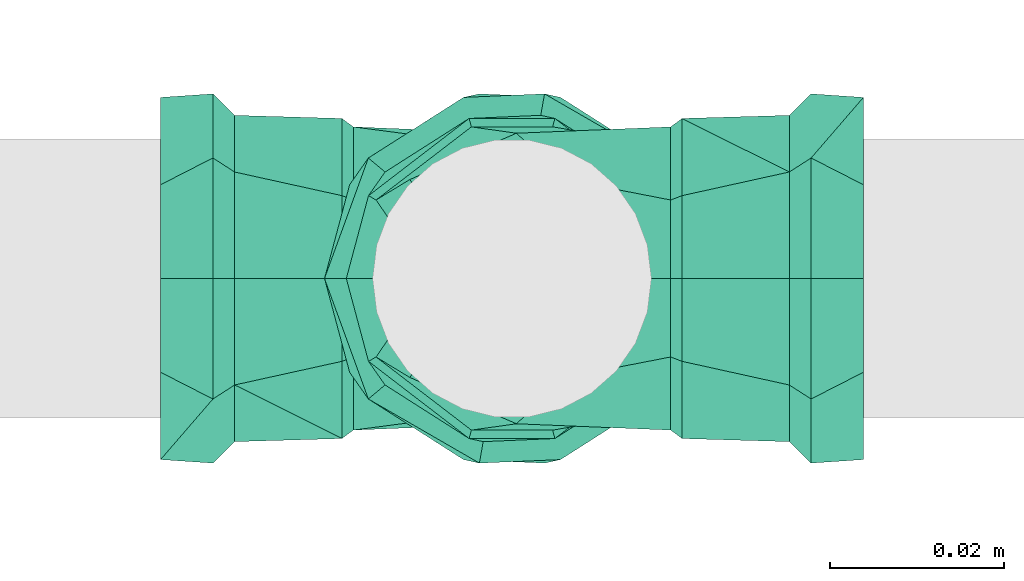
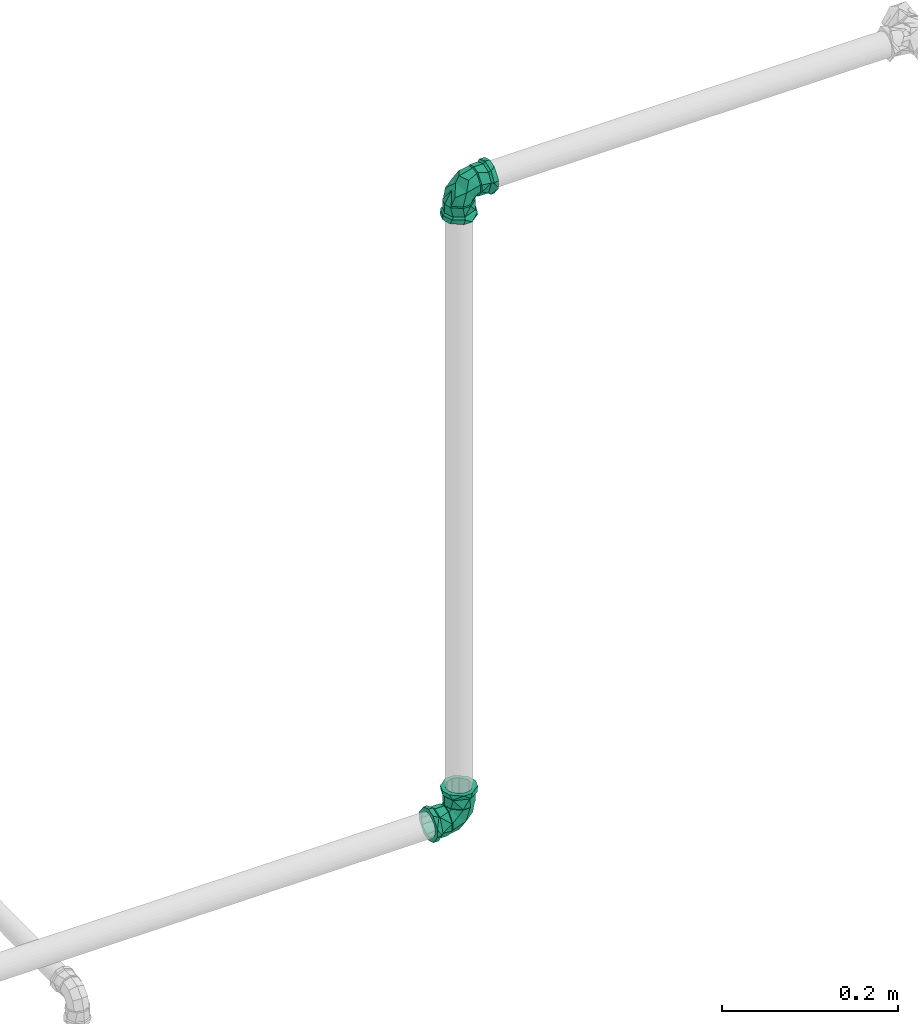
# One storey, part 339 of 589: 2 flow fittings.
"""IFC2X3 building model written with IfcOpenShell, lengths in millimetres."""

from ifc_helpers import new_model, entity, si_unit, converted_unit, derived_unit, direction, frame, origin, place, context, subcontext, project, spatial, faceted_brep, source, transform, mapped, material, type_object, type_shapes, element, save


model = new_model("IFC2X3")

# Units and contexts
model_context = context("Model", 3, precision=0.01, world=origin(), true_north=direction((6.123031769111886e-17, 1.0)))
body_context = subcontext(model_context, "Body", "Model", "MODEL_VIEW")
ifc_project = project(units=[si_unit("LENGTHUNIT", "METRE", prefix="MILLI"), si_unit("AREAUNIT", "SQUARE_METRE"), si_unit("VOLUMEUNIT", "CUBIC_METRE"), converted_unit("PLANEANGLEUNIT", "DEGREE", entity("IfcRatioMeasure", 0.017453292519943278), si_unit("PLANEANGLEUNIT", "RADIAN"), dimensions=[0, 0, 0, 0, 0, 0, 0]), si_unit("MASSUNIT", "GRAM", prefix="KILO"), derived_unit("MASSDENSITYUNIT", [(si_unit("MASSUNIT", "GRAM", prefix="KILO"), 1), (si_unit("LENGTHUNIT", "METRE"), -3)]), derived_unit("IONCONCENTRATIONUNIT", [(si_unit("MASSUNIT", "GRAM", prefix="KILO"), 1), (si_unit("LENGTHUNIT", "METRE"), -3)]), derived_unit("MOMENTOFINERTIAUNIT", [(si_unit("LENGTHUNIT", "METRE"), 4)]), si_unit("TIMEUNIT", "SECOND"), si_unit("FREQUENCYUNIT", "HERTZ"), si_unit("THERMODYNAMICTEMPERATUREUNIT", "DEGREE_CELSIUS"), derived_unit("THERMALTRANSMITTANCEUNIT", [(si_unit("MASSUNIT", "GRAM", prefix="KILO"), 1), (si_unit("THERMODYNAMICTEMPERATUREUNIT", "KELVIN"), -1), (si_unit("TIMEUNIT", "SECOND"), -3)]), derived_unit("THERMALCONDUCTANCEUNIT", [(si_unit("MASSUNIT", "GRAM", prefix="KILO"), 1), (si_unit("THERMODYNAMICTEMPERATUREUNIT", "KELVIN"), -1), (si_unit("TIMEUNIT", "SECOND"), -3), (si_unit("LENGTHUNIT", "METRE"), 1)]), derived_unit("VOLUMETRICFLOWRATEUNIT", [(si_unit("LENGTHUNIT", "METRE"), 3), (si_unit("TIMEUNIT", "SECOND"), -1)]), derived_unit("MASSFLOWRATEUNIT", [(si_unit("MASSUNIT", "GRAM", prefix="KILO"), 1), (si_unit("TIMEUNIT", "SECOND"), -1)]), derived_unit("ROTATIONALFREQUENCYUNIT", [(si_unit("TIMEUNIT", "SECOND"), -1)]), si_unit("ELECTRICCURRENTUNIT", "AMPERE"), si_unit("ELECTRICVOLTAGEUNIT", "VOLT"), si_unit("POWERUNIT", "WATT"), si_unit("FORCEUNIT", "NEWTON", prefix="KILO"), si_unit("ILLUMINANCEUNIT", "LUX"), si_unit("LUMINOUSFLUXUNIT", "LUMEN"), si_unit("LUMINOUSINTENSITYUNIT", "CANDELA"), derived_unit("USERDEFINED", [(si_unit("MASSUNIT", "GRAM", prefix="KILO"), -1), (si_unit("LENGTHUNIT", "METRE"), -2), (si_unit("TIMEUNIT", "SECOND"), 3), (si_unit("LUMINOUSFLUXUNIT", "LUMEN"), 1)]), derived_unit("USERDEFINED", [(si_unit("MASSUNIT", "GRAM", prefix="KILO"), 1), (si_unit("TIMEUNIT", "SECOND"), -3), (si_unit("LENGTHUNIT", "METRE"), 3), (si_unit("ELECTRICCURRENTUNIT", "AMPERE"), -2)]), derived_unit("SOUNDPOWERUNIT", [(si_unit("MASSUNIT", "GRAM", prefix="KILO"), 1), (si_unit("TIMEUNIT", "SECOND"), -3), (si_unit("LENGTHUNIT", "METRE"), 2)]), derived_unit("SOUNDPRESSUREUNIT", [(si_unit("MASSUNIT", "GRAM", prefix="KILO"), 1), (si_unit("LENGTHUNIT", "METRE"), -1), (si_unit("TIMEUNIT", "SECOND"), -2)]), derived_unit("LINEARVELOCITYUNIT", [(si_unit("LENGTHUNIT", "METRE"), 1), (si_unit("TIMEUNIT", "SECOND"), -1)]), si_unit("PRESSUREUNIT", "PASCAL"), derived_unit("USERDEFINED", [(si_unit("MASSUNIT", "GRAM", prefix="KILO"), 1), (si_unit("LENGTHUNIT", "METRE"), -2), (si_unit("TIMEUNIT", "SECOND"), -2)]), derived_unit("LINEARFORCEUNIT", [(si_unit("MASSUNIT", "GRAM", prefix="KILO"), 1), (si_unit("TIMEUNIT", "SECOND"), -2)]), derived_unit("PLANARFORCEUNIT", [(si_unit("MASSUNIT", "GRAM", prefix="KILO"), 1), (si_unit("LENGTHUNIT", "METRE"), -1), (si_unit("TIMEUNIT", "SECOND"), -2)]), derived_unit("SPECIFICHEATCAPACITYUNIT", [(si_unit("THERMODYNAMICTEMPERATUREUNIT", "KELVIN"), -1), (si_unit("LENGTHUNIT", "METRE"), 2), (si_unit("TIMEUNIT", "SECOND"), -2)]), derived_unit("HEATINGVALUEUNIT", [(si_unit("LENGTHUNIT", "METRE"), 2), (si_unit("TIMEUNIT", "SECOND"), -2)]), derived_unit("VAPORPERMEABILITYUNIT", [(si_unit("LENGTHUNIT", "METRE"), -1), (si_unit("TIMEUNIT", "SECOND"), 1)]), derived_unit("DYNAMICVISCOSITYUNIT", [(si_unit("MASSUNIT", "GRAM", prefix="KILO"), 1), (si_unit("TIMEUNIT", "SECOND"), -1), (si_unit("LENGTHUNIT", "METRE"), -1)]), derived_unit("THERMALEXPANSIONCOEFFICIENTUNIT", [(si_unit("THERMODYNAMICTEMPERATUREUNIT", "KELVIN"), -1)]), derived_unit("MODULUSOFELASTICITYUNIT", [(si_unit("MASSUNIT", "GRAM", prefix="KILO"), 1), (si_unit("LENGTHUNIT", "METRE"), -1), (si_unit("TIMEUNIT", "SECOND"), -2)]), derived_unit("ISOTHERMALMOISTURECAPACITYUNIT", [(si_unit("LENGTHUNIT", "METRE"), 3), (si_unit("MASSUNIT", "GRAM", prefix="KILO"), -1)]), derived_unit("MOISTUREDIFFUSIVITYUNIT", [(si_unit("TIMEUNIT", "SECOND"), -1), (si_unit("LENGTHUNIT", "METRE"), 2)])], contexts=[model_context])

# Site, building, storey
site_placement = place(None, origin())
site = spatial("IfcSite", under=ifc_project, at=site_placement, Name="Default", CompositionType="ELEMENT")
building_placement = place(site_placement, origin())
building = spatial("IfcBuilding", under=site, at=building_placement, CompositionType="ELEMENT")
storey_placement = place(building_placement, frame((0.0, 0.0, 100.0)))
storey = spatial("IfcBuildingStorey", under=building, at=storey_placement, Name="TÉRREO", CompositionType="ELEMENT", Elevation=100.0)

# Flow fittings
ifc_material = material(Name="PVC Marrom")
pipe_fitting_type = type_object("IfcPipeFittingType", Name="PVC Marrom Soldável_Joelho 45°_90°_Rodrigo MEP:Joelho", PredefinedType="NOTDEFINED", material=ifc_material)
shared_shape = source(origin(), body_context, "Body", "Brep", [
    faceted_brep([(-16.45448267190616, 19.500000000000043, 9.499999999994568), (-10.686022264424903, 19.500000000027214, 13.926295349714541), (-4.91756185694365, 19.500000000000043, 18.352590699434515), (4.917561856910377, 19.500000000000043, 18.35259069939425), (10.686022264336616, 19.500000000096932, 13.926295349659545), (16.454482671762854, 19.500000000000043, 9.499999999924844), (19.0, 19.500000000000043, 0.0), (16.454482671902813, 19.500000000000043, -9.500000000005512), (10.68602226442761, 19.49999999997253, -13.926295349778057), (4.917561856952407, 19.500000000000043, -18.352590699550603), (-4.9175618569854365, 19.500000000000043, -18.352590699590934), (-10.686022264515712, 19.499999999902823, -13.926295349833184), (-16.454482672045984, 19.500000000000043, -9.500000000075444), (-19.0, 19.500000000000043, 0.0), (18.0, 18.20000000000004, 0.0), (15.588457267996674, 18.200000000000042, 9.0), (10.123600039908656, 18.200000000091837, 13.193332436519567), (4.658742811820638, 18.200000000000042, 17.386664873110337), (-4.658742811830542, 18.200000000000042, 17.386664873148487), (-10.123600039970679, 18.20000000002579, 13.19333243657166), (-15.588457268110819, 18.200000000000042, 9.0), (-18.0, 18.200000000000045, 0.0), (-15.588457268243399, 18.200000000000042, -9.0), (-10.123600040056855, 18.199999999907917, -13.193332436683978), (-4.658742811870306, 18.200000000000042, -17.386664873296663), (4.658742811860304, 18.200000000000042, -17.38666487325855), (10.123600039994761, 18.19999999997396, -13.193332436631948), (15.58845726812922, 18.200000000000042, -9.0)], [[[0, 1, 2, 3, 4, 5, 6, 7, 8, 9, 10, 11, 12, 13]], [[14, 15, 16, 17, 18, 19, 20, 21, 22, 23, 24, 25, 26, 27]], [[7, 6, 14, 27]], [[9, 8, 7, 27, 26, 25]], [[23, 22, 12, 11, 10, 24]], [[25, 24, 10, 9]], [[13, 12, 22, 21]], [[0, 13, 21, 20]], [[2, 1, 0, 20, 19, 18]], [[16, 15, 5, 4, 3, 17]], [[18, 17, 3, 2]], [[6, 5, 15, 14]]]),
    faceted_brep([(-19.499999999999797, -16.454482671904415, 9.500000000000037), (-19.499999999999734, -10.686022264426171, 13.926295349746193), (-19.499999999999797, -4.9175618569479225, 18.35259069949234), (-19.499999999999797, 4.917561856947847, 18.352590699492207), (-19.499999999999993, 10.686022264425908, 13.92629534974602), (-19.499999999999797, 16.45448267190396, 9.499999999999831), (-19.499999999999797, 19.0, 0.0), (-19.499999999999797, 16.454482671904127, -9.49999999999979), (-19.500000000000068, 10.686022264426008, -13.926295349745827), (-19.499999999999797, 4.917561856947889, -18.352590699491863), (-19.499999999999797, -4.917561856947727, -18.352590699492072), (-19.499999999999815, -10.686022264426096, -13.926295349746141), (-19.499999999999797, -16.45448267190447, -9.50000000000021), (-19.499999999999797, -19.0, 0.0), (-18.199999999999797, 18.0, 0.0), (-18.199999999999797, 15.58845726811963, 9.0), (-18.19999999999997, 10.123600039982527, 13.19333243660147), (-18.199999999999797, 4.658742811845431, 17.38666487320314), (-18.199999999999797, -4.658742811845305, 17.3866648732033), (-18.19999999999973, -10.123600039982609, 13.193332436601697), (-18.199999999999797, -15.58845726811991, 9.0), (-18.199999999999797, -18.0, 0.0), (-18.199999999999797, -15.588457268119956, -9.0), (-18.19999999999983, -10.123600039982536, -13.1933324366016), (-18.199999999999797, -4.658742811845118, -17.38666487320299), (-18.199999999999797, 4.658742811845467, -17.38666487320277), (-18.20000000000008, 10.123600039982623, -13.19333243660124), (-18.199999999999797, 15.588457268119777, -9.0)], [[[0, 1, 2, 3, 4, 5, 6, 7, 8, 9, 10, 11, 12, 13]], [[14, 15, 16, 17, 18, 19, 20, 21, 22, 23, 24, 25, 26, 27]], [[7, 6, 14, 27]], [[9, 8, 7, 27, 26, 25]], [[23, 22, 12, 11, 10, 24]], [[25, 24, 10, 9]], [[13, 12, 22, 21]], [[0, 13, 21, 20]], [[2, 1, 0, 20, 19, 18]], [[16, 15, 5, 4, 3, 17]], [[18, 17, 3, 2]], [[6, 5, 15, 14]]]),
    faceted_brep([(-40.2999999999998, -5.564609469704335, -20.76740526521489), (-40.2999999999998, -8.0, -13.856406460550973), (-40.2999999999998, 0.0, -16.0), (-40.2999999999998, -18.619546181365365, -10.750000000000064), (-40.2999999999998, 5.5646094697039, -20.767405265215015), (-40.2999999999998, -15.45481322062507, -4.141104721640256), (-40.2999999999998, -21.499999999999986, 0.0), (-40.2999999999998, -15.454813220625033, 4.141104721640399), (-40.2999999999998, -18.619546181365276, 10.74999999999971), (-40.2999999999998, -8.0, 13.856406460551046), (-40.2999999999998, -5.564609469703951, 20.7674052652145), (-40.2999999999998, 0.0, 16.0), (-40.2999999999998, 5.564609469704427, 20.76740526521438), (-40.2999999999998, 8.0, 13.856406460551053), (-40.2999999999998, 18.619546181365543, 10.749999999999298), (-40.2999999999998, 15.454813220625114, 4.141104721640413), (-40.2999999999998, 21.50000000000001, 0.0), (-40.2999999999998, 15.454813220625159, -4.141104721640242), (-40.2999999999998, 18.619546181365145, -10.750000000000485), (-40.2999999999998, 8.0, -13.856406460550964), (-34.2999999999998, 21.50000000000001, 0.0), (-34.30000000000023, 16.469185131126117, 13.82085167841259), (-34.30000000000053, 3.7310752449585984, 21.173782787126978), (-34.30000000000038, -16.472651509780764, 13.816720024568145), (-34.2999999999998, -21.499999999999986, 0.0), (-34.29999999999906, -16.47265150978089, -13.8167200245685), (-34.2999999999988, -3.7363864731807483, -21.17284619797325), (-34.299999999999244, 16.46918513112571, -13.820851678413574), (-31.7999999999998, -19.0, 0.0), (-31.80000000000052, -14.557226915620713, 12.210124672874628), (-31.800000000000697, 3.2972292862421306, 18.711715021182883), (-31.800000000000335, 14.554163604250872, 12.213775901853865), (-31.79999999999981, 19.0, 0.0), (-31.79999999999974, 14.554163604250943, -12.213775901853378), (-31.79999999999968, -3.301922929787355, -18.710887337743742), (-31.79999999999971, -14.557226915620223, -12.210124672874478), (-19.499999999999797, 0.0, -16.0), (-19.499999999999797, -8.0, -13.856406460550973), (-19.499999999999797, -4.917561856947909, -18.352590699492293), (-19.499999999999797, 4.917561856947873, -18.352590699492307), (-19.499999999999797, 8.0, -13.856406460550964), (-19.499999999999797, -16.45448267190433, -9.499999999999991), (-19.499999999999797, -15.45481322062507, -4.141104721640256), (-19.499999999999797, -19.0, 0.0), (-19.499999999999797, -15.454813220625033, 4.141104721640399), (-19.499999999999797, -16.45448267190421, 9.500000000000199), (-19.499999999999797, -8.0, 13.856406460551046), (-19.499999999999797, -4.917561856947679, 18.352590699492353), (-19.499999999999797, 0.0, 16.0), (-19.499999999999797, 4.9175618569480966, 18.352590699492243), (-19.499999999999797, 8.0, 13.856406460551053), (-19.499999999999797, 16.454482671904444, 9.499999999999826), (-19.499999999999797, 15.454813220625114, 4.141104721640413), (-19.499999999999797, 19.0, 0.0), (-19.499999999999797, 15.454813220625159, -4.141104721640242), (-19.499999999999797, 16.454482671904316, -9.500000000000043)], [[[0, 1, 2]], [[1, 0, 3]], [[2, 4, 0]], [[3, 5, 1]], [[3, 6, 5]], [[5, 6, 7]], [[8, 7, 6]], [[7, 8, 9]], [[10, 9, 8]], [[9, 10, 11]], [[11, 10, 12]], [[12, 13, 11]], [[14, 13, 12]], [[13, 14, 15]], [[16, 15, 14]], [[16, 17, 15]], [[18, 17, 16]], [[19, 17, 18]], [[19, 18, 4]], [[4, 2, 19]], [[16, 14, 20]], [[14, 21, 20]], [[21, 14, 12]], [[21, 12, 22]], [[23, 10, 8]], [[24, 8, 6]], [[10, 23, 22]], [[23, 8, 24]], [[10, 22, 12]], [[6, 3, 24]], [[3, 25, 24]], [[25, 3, 0]], [[25, 0, 26]], [[27, 4, 18]], [[20, 18, 16]], [[4, 27, 26]], [[27, 18, 20]], [[4, 26, 0]], [[28, 29, 23, 24]], [[22, 23, 29, 30]], [[31, 32, 20, 21]], [[31, 21, 22, 30]], [[32, 33, 27, 20]], [[26, 27, 33, 34]], [[35, 28, 24, 25]], [[35, 25, 26, 34]], [[36, 37, 38]], [[38, 39, 36]], [[40, 36, 39]], [[41, 38, 37]], [[37, 42, 41]], [[42, 43, 41]], [[44, 43, 42]], [[43, 44, 45]], [[46, 45, 44]], [[45, 46, 47]], [[48, 47, 46]], [[49, 47, 48]], [[48, 50, 49]], [[49, 50, 51]], [[52, 51, 50]], [[51, 52, 53]], [[52, 54, 53]], [[55, 54, 40]], [[53, 54, 55]], [[39, 55, 40]], [[32, 31, 51]], [[32, 51, 53]], [[51, 31, 49]], [[31, 30, 49]], [[47, 30, 29]], [[45, 29, 28]], [[29, 45, 47]], [[45, 28, 43]], [[30, 47, 49]], [[28, 35, 41]], [[28, 41, 43]], [[41, 35, 38]], [[35, 34, 38]], [[39, 34, 33]], [[55, 33, 32]], [[33, 55, 39]], [[55, 32, 53]], [[34, 39, 38]], [[9, 11, 48, 46]], [[7, 9, 46, 44]], [[44, 42, 5, 7]], [[1, 5, 42, 37]], [[2, 1, 37, 36]], [[19, 2, 36, 40]], [[17, 19, 40, 54]], [[54, 52, 15, 17]], [[13, 15, 52, 50]], [[11, 13, 50, 48]]]),
    faceted_brep([(-18.199999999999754, -4.658742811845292, -17.386664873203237), (-18.199999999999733, -15.588457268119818, -9.0), (-18.19999999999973, -18.0, 0.0), (-18.199999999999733, -15.588457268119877, 9.0), (-18.199999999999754, -4.658742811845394, 17.38666487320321), (-18.199999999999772, 4.658742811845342, 17.38666487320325), (-18.199999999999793, 15.588457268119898, 9.0), (-18.199999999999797, 18.0, 0.0), (-18.199999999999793, 15.588457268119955, -9.0), (-18.199999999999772, 4.658742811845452, -17.386664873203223), (-4.658742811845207, 18.199999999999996, -17.386664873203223), (-15.58845726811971, 18.200000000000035, -9.0), (-18.0, 18.20000000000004, 0.0), (-15.588457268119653, 18.200000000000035, 9.0), (-4.658742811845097, 18.199999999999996, 17.38666487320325), (4.658742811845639, 18.199999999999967, 17.38666487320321), (15.588457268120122, 18.199999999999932, 9.0), (18.0, 18.199999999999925, 0.0), (15.588457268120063, 18.199999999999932, -9.0), (4.658742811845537, 18.199999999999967, -17.386664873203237), (-0.5106822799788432, 0.5106805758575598, 16.65940212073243), (-6.351245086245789, -11.705275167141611, 11.354373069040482), (-3.314119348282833, -9.405632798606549, 0.0), (4.918000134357, -4.652816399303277, 0.0), (11.690019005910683, 6.244621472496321, 11.323227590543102), (13.150119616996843, 0.09999999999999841, 0.0), (-18.058578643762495, 18.05857864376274, 0.0), (-10.592125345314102, 10.592125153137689, 16.390054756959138), (-0.5106820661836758, 0.5106805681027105, -16.65940205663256), (-10.59212523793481, 10.592125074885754, -16.390054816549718), (11.690018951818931, 6.2446215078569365, -11.32322766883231), (-6.351245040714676, -11.7052751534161, -11.354373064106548)], [[[0, 1, 2, 3, 4, 5, 6, 7, 8, 9]], [[10, 11, 12, 13, 14, 15, 16, 17, 18, 19]], [[4, 20, 5]], [[21, 3, 22]], [[20, 4, 21]], [[21, 22, 23]], [[16, 24, 25]], [[26, 6, 13]], [[23, 20, 21]], [[26, 7, 6]], [[6, 5, 27]], [[3, 2, 22]], [[20, 23, 24]], [[25, 17, 16]], [[20, 27, 5]], [[15, 20, 24]], [[16, 15, 24]], [[6, 27, 13]], [[26, 13, 12]], [[21, 4, 3]], [[27, 14, 13]], [[27, 20, 14]], [[23, 25, 24]], [[14, 20, 15]], [[8, 7, 26]], [[28, 29, 10]], [[28, 19, 30]], [[8, 11, 29]], [[31, 22, 1]], [[31, 23, 22]], [[28, 9, 29]], [[18, 30, 19]], [[0, 28, 31]], [[1, 22, 2]], [[8, 26, 11]], [[11, 10, 29]], [[8, 29, 9]], [[31, 1, 0]], [[19, 28, 10]], [[30, 18, 25]], [[0, 9, 28]], [[18, 17, 25]], [[25, 23, 30]], [[23, 31, 28]], [[30, 23, 28]], [[11, 26, 12]]]),
    faceted_brep([(0.0, 19.500000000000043, -16.0), (-8.0, 19.500000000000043, -13.856406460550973), (-4.917561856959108, 19.500000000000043, -18.352590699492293), (4.917561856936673, 19.500000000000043, -18.352590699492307), (8.0, 19.500000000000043, -13.856406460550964), (-16.454482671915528, 19.500000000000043, -9.499999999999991), (-15.454813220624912, 19.500000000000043, -4.141104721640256), (-19.0, 19.500000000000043, 0.0), (-15.454813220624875, 19.500000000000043, 4.141104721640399), (-16.454482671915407, 19.500000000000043, 9.500000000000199), (-8.0, 19.500000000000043, 13.856406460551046), (-4.917561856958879, 19.500000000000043, 18.352590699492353), (0.0, 19.500000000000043, 16.0), (4.9175618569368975, 19.500000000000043, 18.352590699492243), (8.0, 19.500000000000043, 13.856406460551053), (16.454482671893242, 19.500000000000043, 9.499999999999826), (15.454813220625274, 19.500000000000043, 4.141104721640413), (19.0, 19.500000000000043, 0.0), (15.454813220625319, 19.500000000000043, -4.141104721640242), (16.454482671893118, 19.500000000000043, -9.500000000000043), (19.0, 31.800000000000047, 0.0), (14.554163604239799, 31.80000000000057, 12.213775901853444), (-3.3019229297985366, 31.800000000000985, 18.710887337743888), (-14.557226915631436, 31.80000000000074, 12.210124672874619), (-19.0, 31.800000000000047, 0.0), (-14.557226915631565, 31.8000000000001, -12.21012467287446), (3.297229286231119, 31.800000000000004, -18.711715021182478), (14.55416360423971, 31.8, -12.213775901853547), (-16.46918513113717, 34.300000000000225, 13.820851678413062), (-21.50000000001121, 34.30000000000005, 0.0), (-3.731075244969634, 34.3000000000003, 21.173782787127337), (16.47265150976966, 34.30000000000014, 13.816720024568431), (21.49999999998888, 34.29999999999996, 0.0), (16.47265150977, 34.30000000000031, -13.816720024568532), (3.73638647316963, 34.30000000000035, -21.172846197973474), (-16.469185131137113, 34.30000000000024, -13.820851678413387), (-5.564609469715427, 40.30000000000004, -20.767405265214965), (-8.0, 40.30000000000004, -13.856406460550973), (0.0, 40.30000000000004, -16.0), (-18.61954618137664, 40.30000000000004, -10.749999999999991), (5.564609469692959, 40.30000000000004, -20.76740526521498), (-15.45481322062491, 40.30000000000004, -4.141104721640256), (-21.5000000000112, 40.30000000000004, 0.0), (-15.454813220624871, 40.30000000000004, 4.141104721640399), (-18.619546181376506, 40.30000000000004, 10.750000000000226), (-8.0, 40.30000000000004, 13.856406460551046), (-5.564609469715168, 40.30000000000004, 20.767405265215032), (0.0, 40.30000000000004, 16.0), (5.564609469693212, 40.30000000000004, 20.76740526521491), (8.0, 40.30000000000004, 13.856406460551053), (18.619546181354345, 40.30000000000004, 10.749999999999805), (15.454813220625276, 40.30000000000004, 4.141104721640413), (21.499999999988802, 40.30000000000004, 0.0), (15.45481322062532, 40.30000000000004, -4.141104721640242), (18.619546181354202, 40.30000000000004, -10.75000000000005), (8.0, 40.30000000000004, -13.856406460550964)], [[[0, 1, 2]], [[2, 3, 0]], [[4, 0, 3]], [[5, 2, 1]], [[1, 6, 5]], [[6, 7, 5]], [[8, 7, 6]], [[7, 8, 9]], [[10, 9, 8]], [[9, 10, 11]], [[12, 11, 10]], [[13, 11, 12]], [[12, 14, 13]], [[13, 14, 15]], [[16, 15, 14]], [[15, 16, 17]], [[16, 18, 17]], [[19, 18, 4]], [[17, 18, 19]], [[3, 19, 4]], [[20, 21, 15]], [[20, 15, 17]], [[15, 21, 13]], [[21, 22, 13]], [[11, 22, 23]], [[9, 23, 24]], [[23, 9, 11]], [[9, 24, 7]], [[22, 11, 13]], [[24, 25, 5]], [[24, 5, 7]], [[5, 25, 2]], [[25, 26, 2]], [[3, 26, 27]], [[19, 27, 20]], [[27, 19, 3]], [[19, 20, 17]], [[26, 3, 2]], [[23, 22, 28]], [[24, 23, 29]], [[29, 23, 28]], [[22, 30, 28]], [[21, 20, 31]], [[31, 30, 21]], [[32, 31, 20]], [[21, 30, 22]], [[20, 27, 33]], [[33, 32, 20]], [[34, 33, 27]], [[27, 26, 34]], [[25, 24, 29]], [[25, 35, 26]], [[35, 25, 29]], [[26, 35, 34]], [[36, 37, 38]], [[37, 36, 39]], [[38, 40, 36]], [[39, 41, 37]], [[39, 42, 41]], [[41, 42, 43]], [[44, 43, 42]], [[43, 44, 45]], [[46, 45, 44]], [[45, 46, 47]], [[47, 46, 48]], [[48, 49, 47]], [[50, 49, 48]], [[49, 50, 51]], [[52, 51, 50]], [[52, 53, 51]], [[54, 53, 52]], [[55, 53, 54]], [[55, 54, 40]], [[40, 38, 55]], [[52, 50, 32]], [[50, 31, 32]], [[31, 50, 48]], [[31, 48, 30]], [[28, 46, 44]], [[29, 44, 42]], [[46, 28, 30]], [[28, 44, 29]], [[46, 30, 48]], [[42, 39, 29]], [[39, 35, 29]], [[35, 39, 36]], [[35, 36, 34]], [[33, 40, 54]], [[32, 54, 52]], [[40, 33, 34]], [[33, 54, 32]], [[40, 34, 36]], [[45, 47, 12, 10]], [[43, 45, 10, 8]], [[8, 6, 41, 43]], [[37, 41, 6, 1]], [[38, 37, 1, 0]], [[55, 38, 0, 4]], [[53, 55, 4, 18]], [[18, 16, 51, 53]], [[49, 51, 16, 14]], [[47, 49, 14, 12]]]),
])
type_shapes(pipe_fitting_type, [shared_shape])
for number, where, z_axis, x_axis in (
    (1, (3417.8629598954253, -8050.836480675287, 2980.0), (0.0, 1.0, 0.0), (0.0, 0.0, -1.0)),
    (2, (3417.8629598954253, -8050.83648067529, 3855.0), (0.0, 1.0, 0.0), (0.0, 0.0, 1.0)),
):
    element("IfcFlowFitting", number, at=place(storey_placement, frame(where, z_axis=z_axis, x_axis=x_axis)), inside=storey, type_object=pipe_fitting_type, material=ifc_material, Name="PVC Marrom Soldável_Joelho 45°_90°_Rodrigo MEP:Joelho", ObjectType="PVC Marrom Soldável_Joelho 45°_90°_Rodrigo MEP:Joelho", context=body_context, shape_type="MappedRepresentation", body=[
        mapped(shared_shape, transform((0.0, 0.0, 0.0), scale=1.0)),
    ])

save(model, "model.ifc")
